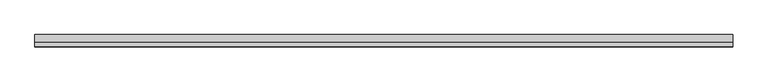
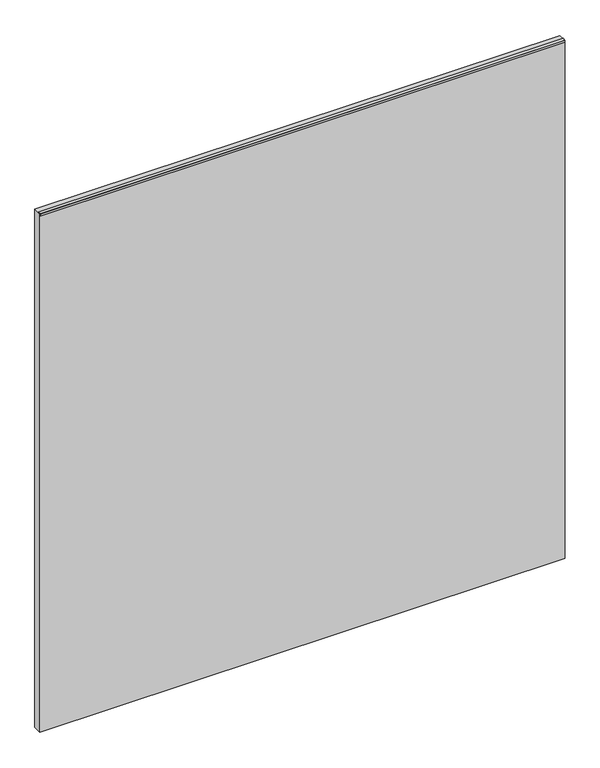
"""IFC4 building model written with IfcOpenShell, lengths in millimetres: proxy geometry, Markerboard-Teknion-FCGA-Arch_Complements-Backpainted_Glass-R2021 : Backpainted Glass Markerboard."""

from ifc_helpers import new_model, si_unit, point, frame, frame_2d, origin, place, context, project, spatial, polyline, circle_curve, trimmed, segment, composite_curve, outline, extrude, source, transform, mapped, element, save


def specialty_equipment_bbbfd60c(model_context):
    return source(origin(), model_context, "Body", "SweptSolid", [
        extrude(outline(composite_curve([segment(polyline([(-13.5235795, 1235.0114985), (-13.5235795, 1233.4875), (-19.05, 1233.4875), (-19.05, 1229.9314988), (-19.8431565, 1229.8955772), (-20.4872805, 1234.4044498)]), True, "CONTINUOUS"), segment(trimmed(circle_curve(frame_2d((-19.7316731, 1234.2818427)), 0.7654901), [point((-20.4872805, 1234.4044498))], [point((-19.9631412, 1235.0114985))], False, "CARTESIAN"), True, "CONTINUOUS"), segment(polyline([(-19.9631412, 1235.0114985), (-13.5235795, 1235.0114985)]), True, "CONTINUOUS")], self_intersect=False)), frame((-82.5231001, 0.0, 0.0), z_axis=(1.0, 0.0, 0.0), x_axis=(0.0, 1.0, 0.0)), (0.0, 0.0, 1.0), 1168.4),
        extrude(outline(polyline([(-82.5231001, 0.0), (1085.8768999, 0.0), (1085.8768999, -19.05), (-82.5231001, -19.05), (-82.5231001, 0.0)])), frame((0.0, 0.0, 14.2875), z_axis=(0.0, 0.0, 1.0), x_axis=(1.0, 0.0, 0.0)), (0.0, 0.0, 1.0), 1219.2),
    ])


if __name__ == "__main__":
    model = new_model("IFC4")
    model_context = context("Model", 3, world=origin())
    ifc_project = project(units=[si_unit("LENGTHUNIT", "METRE", prefix="MILLI")], contexts=[model_context])
    site = spatial("IfcSite", under=ifc_project)
    building = spatial("IfcBuilding", under=site)
    placement = place(None, origin())
    specialty_equipment_shape = specialty_equipment_bbbfd60c(model_context)
    element("IfcBuildingElementProxy", 1, Name="Markerboard-Teknion-FCGA-Arch_Complements-Backpainted_Glass-R2021 : Backpainted Glass Markerboard", ObjectType="Markerboard-Teknion-FCGA-Arch_Complements-Backpainted_Glass-R2021 : Backpainted Glass Markerboard", at=placement, inside=building, context=model_context, shape_type="MappedRepresentation", body=[
        mapped(specialty_equipment_shape, transform((0.0, 0.0, 0.0), x_axis=(1.0, 0.0, 0.0), y_axis=(0.0, 1.0, 0.0), z_axis=(0.0, 0.0, 1.0))),
    ])
    save(model, "model.ifc")
